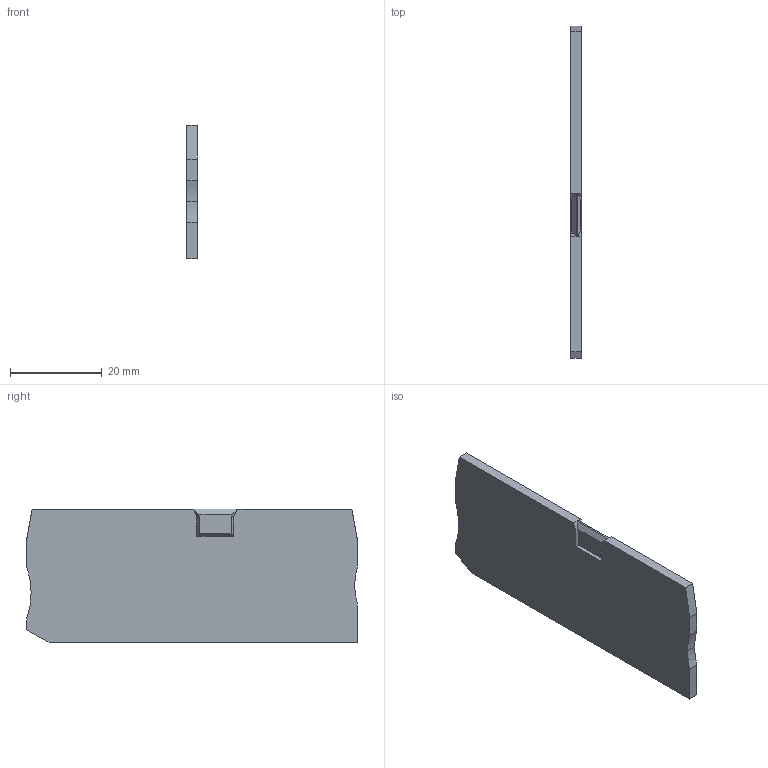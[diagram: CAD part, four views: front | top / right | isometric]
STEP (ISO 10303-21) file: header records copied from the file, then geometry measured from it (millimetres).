
FILE_DESCRIPTION(('TFLEX Exchange Step'),'2;1');
FILE_NAME('14000146_К-КНБ_2,5-4-С.stp', '2025-06-24T11:21:14+03:00',('MVarava'),('Unknown organisation'),'TFLEX Exchange 2023.0','T-FLEX CAD','Unknown authorisation');
FILE_SCHEMA( ('AUTOMOTIVE_DESIGN { 1 0 10303 214 1 1 1 1 }') );
Length unit declared in the file: millimetre
Products named in the file (1): Nodes
Bounding box: 2.2 x 72.3 x 29.1 mm (x, y, z)
Volume: 4523.5 mm3; surface area: 4629.8 mm2
Topology: 1 solids, 1 shells, 260 faces, 751 edges, 500 vertices
Faces by surface type: cylinder 166, plane 94
Entity records: 8716 total; most frequent: CARTESIAN_POINT 1661, DIRECTION 1530, ORIENTED_EDGE 1502, EDGE_CURVE 751, AXIS2_PLACEMENT_3D 589, VERTEX_POINT 500, VECTOR 352, LINE 352
